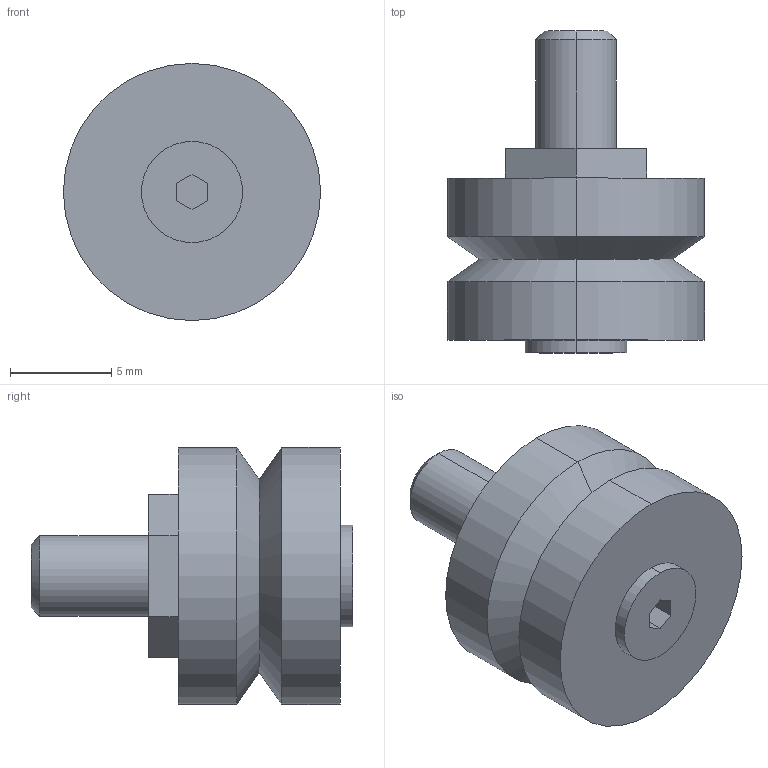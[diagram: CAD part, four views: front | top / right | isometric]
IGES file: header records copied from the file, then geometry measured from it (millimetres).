
Start section: 3D InterOp IGES (Version 21 0 1), Spatial Corp. Copyright (c) 1999-2007.
Global section: file name: RBHJ13CNS.igs; native system: Spatial Corp.; preprocessor: 3D InterOp GENERIC/IGES 3.0; author: Noname; organization: Noname; date: 20220627.165151; units: millimetre
Bounding box: 12.7 x 15.9 x 12.7 mm (x, y, z)
Surface area: 755.1 mm2 (no closed solid volume)
Topology: 0 solids, 0 shells, 32 faces, 140 edges, 140 vertices
Faces by surface type: extrusion 18, revolution 14
